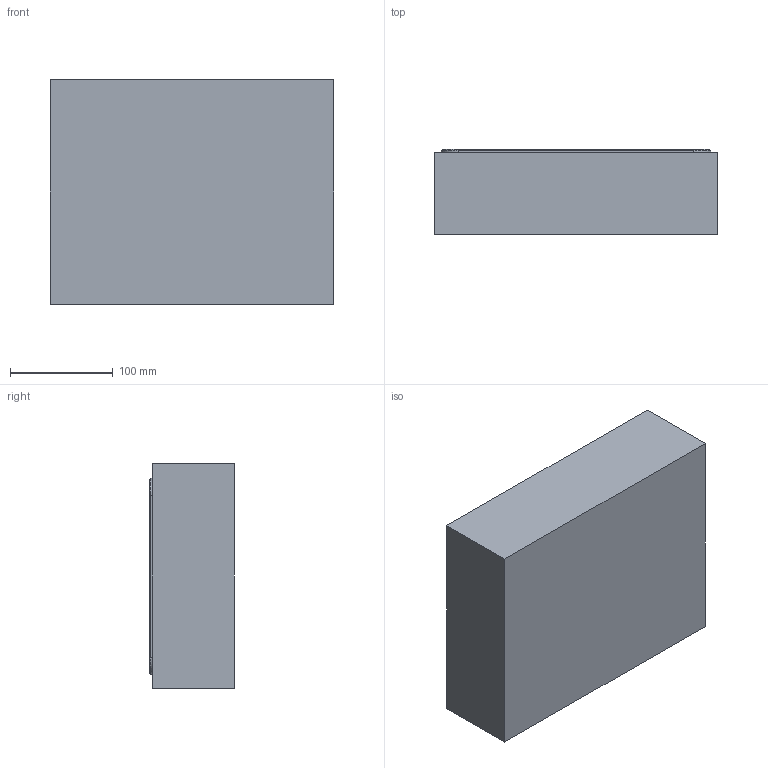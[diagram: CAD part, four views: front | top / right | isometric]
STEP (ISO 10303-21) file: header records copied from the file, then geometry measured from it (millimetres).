
FILE_DESCRIPTION (( 'STEP AP203' ), '1' );
FILE_NAME ('bottom inside type 1000.STEP', '2013-07-04T12:58:00', ( 'Master' ), ( '' ), 'SwSTEP 2.0', 'SolidWorks 2013', '' );
FILE_SCHEMA (( 'CONFIG_CONTROL_DESIGN' ));
Length unit declared in the file: millimetre
Products named in the file (1): bottom inside type 1000
Bounding box: 276.08 x 82.76 x 218.52 mm (x, y, z)
Volume: 1984630 mm3; surface area: 254187.9 mm2
Topology: 1 solids, 1 shells, 110 faces, 278 edges, 176 vertices
Faces by surface type: bspline 66, plane 44
Entity records: 5261 total; most frequent: CARTESIAN_POINT 3173, ORIENTED_EDGE 556, EDGE_CURVE 278, DIRECTION 220, VERTEX_POINT 176, VECTOR 130, LINE 130, EDGE_LOOP 116
